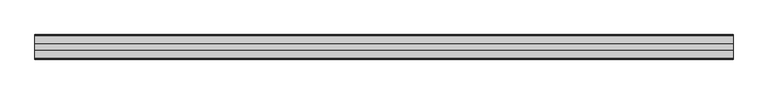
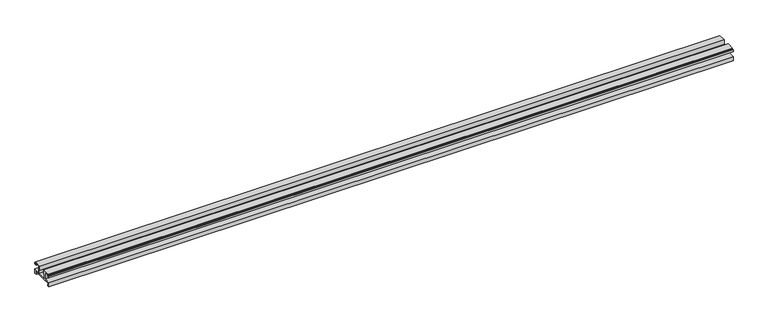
"""IFC4 building model written with IfcOpenShell, lengths in millimetres: proxy geometry, Weiku - Montante - Acoplamento vidro : Weiku - Montante - Acoplamento vidro."""

from ifc_helpers import new_model, si_unit, frame, origin, place, context, project, spatial, polyline, outline, extrude, source, transform, mapped, element, save


def generic_models_975c8422(model_context):
    return source(origin(), model_context, "Body", "SweptSolid", [
        extrude(outline(polyline([(35.405, 5.1494), (12.495, 5.1494), (12.495, 6.8004), (2.159, 6.8004), (2.159, 2.6094), (4.0216, 2.6094), (4.0216, 0.0), (-0.0014508, 0.0), (-0.0014508, 8.79), (12.954, 8.79), (12.954, 23.3104), (4.3603, 23.3104), (4.3603, 19.204), (0.0, 19.204), (0.0, 22.8024), (0.9736, 22.8024), (0.9736, 20.3894), (3.175, 20.3894), (3.175, 23.9454), (2.3735496, 23.9454), (2.3735496, 25.3), (17.4836, 25.3), (17.4836, 16.283), (15.4516, 16.283), (15.4516, 8.8), (32.4484, 8.8), (32.4484, 16.283), (30.4164, 16.283), (30.4164, 25.3), (45.5264504, 25.3), (45.5264504, 23.9454), (44.725, 23.9454), (44.725, 20.3894), (46.9264, 20.3894), (46.9264, 22.8024), (47.9, 22.8024), (47.9, 19.204), (43.5397, 19.204), (43.5397, 23.3104), (34.946, 23.3104), (34.946, 8.79), (47.9014508, 8.79), (47.9014508, 0.0), (43.8784, 0.0), (43.8784, 2.6094), (45.741, 2.6094), (45.741, 6.8004), (35.405, 6.8004), (35.405, 5.1494)])), frame((-679.25, 0.0, 0.0), z_axis=(1.0, 0.0, 0.0), x_axis=(0.0, 1.0, 0.0)), (0.0, 0.0, 1.0), 1358.5),
    ])


if __name__ == "__main__":
    model = new_model("IFC4")
    model_context = context("Model", 3, world=origin())
    ifc_project = project(units=[si_unit("LENGTHUNIT", "METRE", prefix="MILLI")], contexts=[model_context])
    site = spatial("IfcSite", under=ifc_project)
    building = spatial("IfcBuilding", under=site)
    placement = place(None, origin())
    generic_models_shape = generic_models_975c8422(model_context)
    element("IfcBuildingElementProxy", 1, Name="Weiku - Montante - Acoplamento vidro : Weiku - Montante - Acoplamento vidro", ObjectType="Weiku - Montante - Acoplamento vidro : Weiku - Montante - Acoplamento vidro", at=placement, inside=building, context=model_context, shape_type="MappedRepresentation", body=[
        mapped(generic_models_shape, transform((0.0, 0.0, 0.0), x_axis=(1.0, 0.0, 0.0), y_axis=(0.0, 1.0, 0.0), z_axis=(0.0, 0.0, 1.0))),
    ])
    save(model, "model.ifc")
